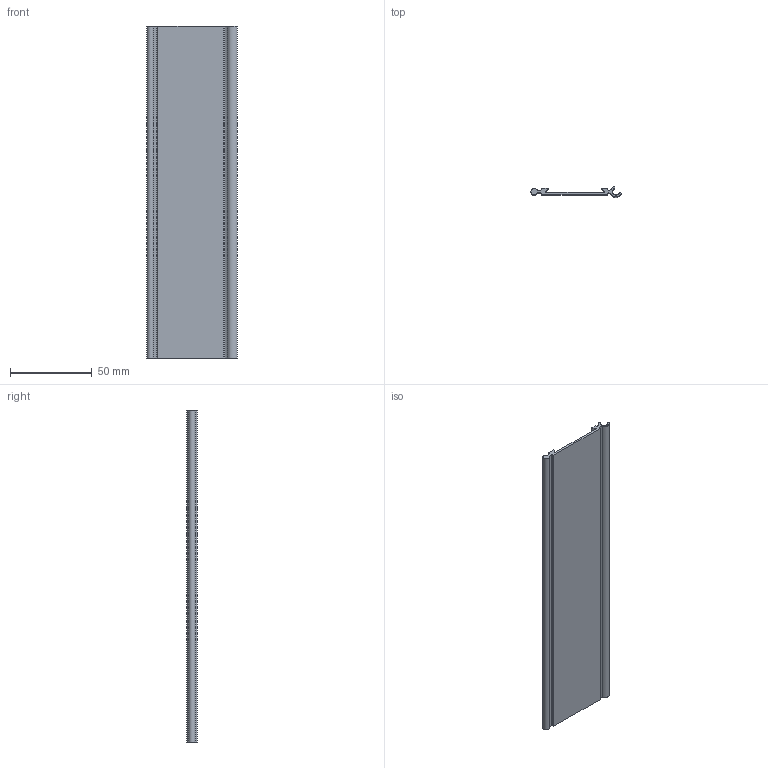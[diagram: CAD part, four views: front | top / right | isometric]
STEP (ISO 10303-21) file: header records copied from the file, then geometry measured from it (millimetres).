
FILE_DESCRIPTION((''),'2;1');
FILE_NAME('EAP-05L8_L12','2022-09-03T',('daizh'),(''),'CREO PARAMETRIC BY PTC INC, 2018360','CREO PARAMETRIC BY PTC INC, 2018360','');
FILE_SCHEMA(('CONFIG_CONTROL_DESIGN'));
Length unit declared in the file: millimetre
Products named in the file (1): EAP-05L8_L12
Bounding box: 55.17 x 6.44 x 203.2 mm (x, y, z)
Volume: 22367.1 mm3; surface area: 28031 mm2
Topology: 1 solids, 1 shells, 38 faces, 108 edges, 72 vertices
Faces by surface type: plane 22, cylinder 16
Entity records: 1282 total; most frequent: CARTESIAN_POINT 218, DIRECTION 216, ORIENTED_EDGE 216, EDGE_CURVE 108, VECTOR 76, LINE 76, VERTEX_POINT 72, AXIS2_PLACEMENT_3D 70
